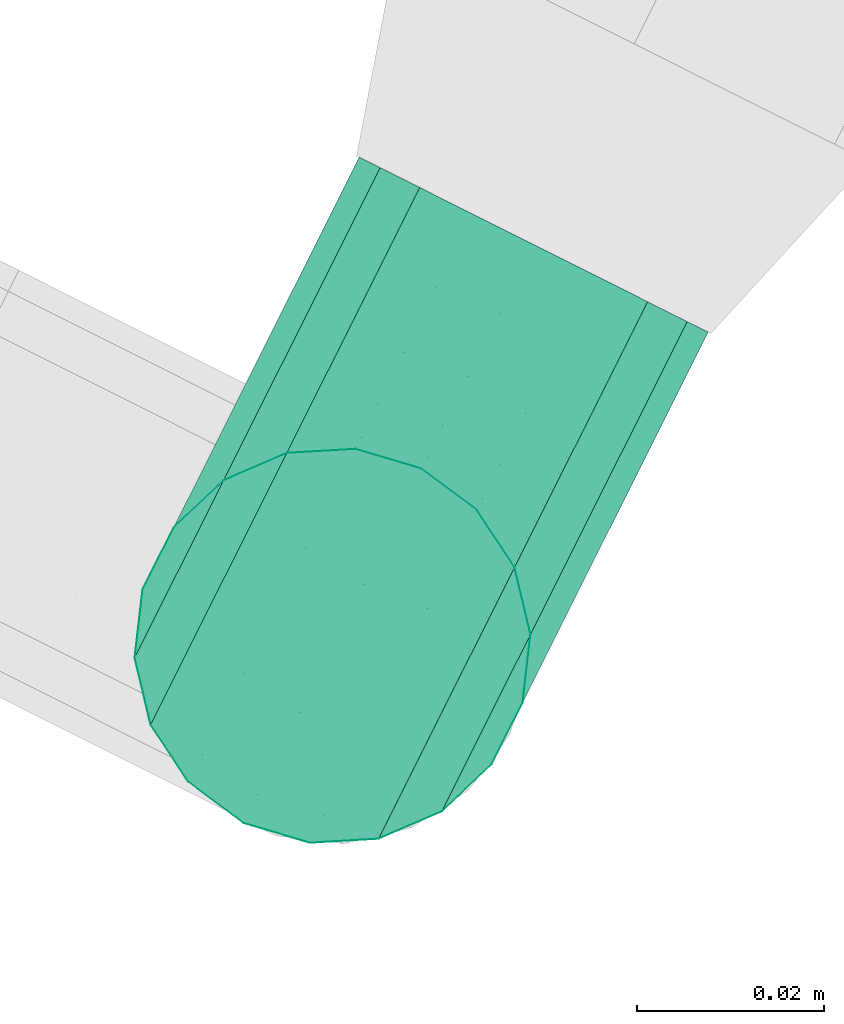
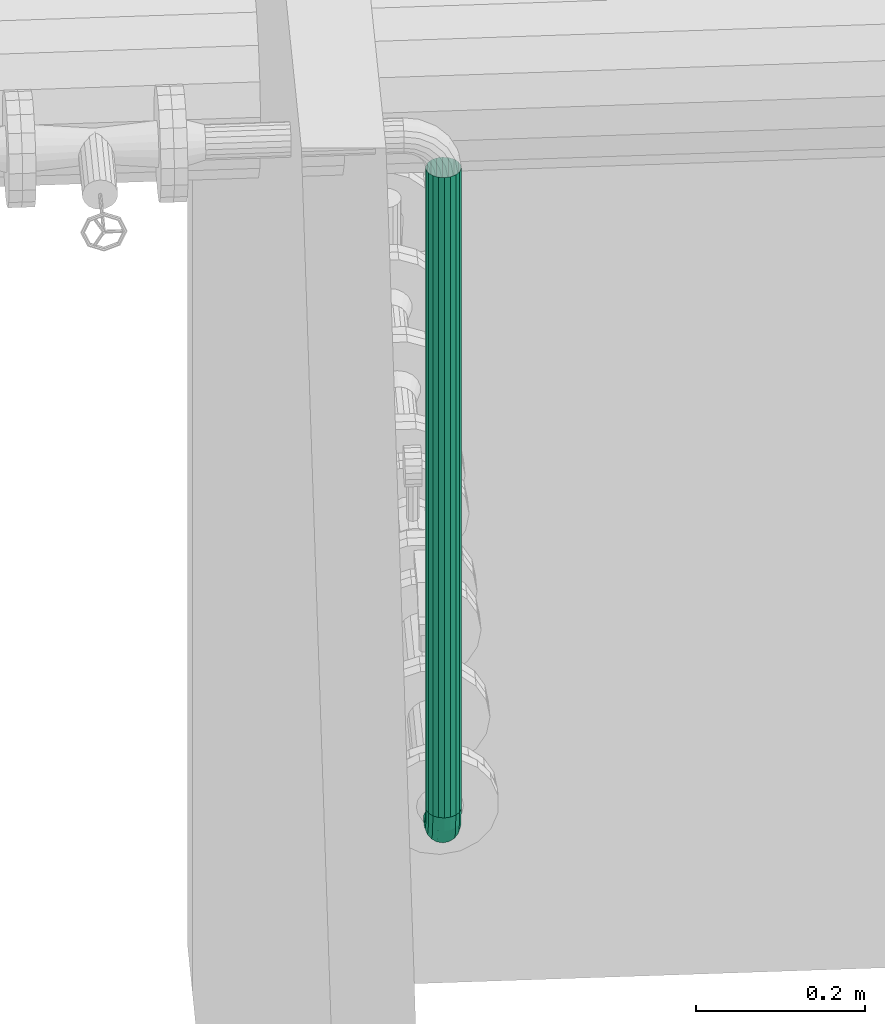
# One storey, part 85 of 206: 2 flow segments.
"""IFC2X3 building model written with IfcOpenShell, lengths in metres."""

from ifc_helpers import new_model, si_unit, derived_unit, direction, frame, origin, place, context, subcontext, project, spatial, face_set, surface_model, source, transform, mapped, material, type_object, type_shapes, element, save


model = new_model("IFC2X3")

# Units and contexts
model_context = context("Model", 3, precision=5.2338327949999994e-05, world=origin(), true_north=direction((0.0, 1.0)))
body_context = subcontext(model_context, "Body", "Model", "MODEL_VIEW")
ifc_project = project(units=[si_unit("LENGTHUNIT", "METRE"), si_unit("AREAUNIT", "SQUARE_METRE"), si_unit("VOLUMEUNIT", "CUBIC_METRE"), si_unit("MASSUNIT", "GRAM", prefix="KILO"), si_unit("PLANEANGLEUNIT", "RADIAN"), derived_unit("THERMALTRANSMITTANCEUNIT", [(si_unit("MASSUNIT", "GRAM", prefix="KILO"), 1), (si_unit("THERMODYNAMICTEMPERATUREUNIT", "KELVIN"), -1), (si_unit("TIMEUNIT", "SECOND"), -3)])], contexts=[model_context])

# Site, building, storey
site_placement = place(None, frame((0.0, 0.0, 0.0), z_axis=(0.0, 0.0, 1.0), x_axis=(0.8939966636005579, -0.4480736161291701, 0.0)))
site = spatial("IfcSite", under=ifc_project, at=site_placement, Name="Default", CompositionType="ELEMENT")
building_placement = place(site_placement, origin())
building = spatial("IfcBuilding", under=site, at=building_placement, CompositionType="ELEMENT")
storey_placement = place(building_placement, origin())
storey = spatial("IfcBuildingStorey", under=building, at=storey_placement, Name="Erdgeschoss", CompositionType="ELEMENT", Elevation=0.0)

# Flow segments
ifc_material = material(Name="IfcSurfaceStyle #352577")
distribution_element_type_1 = type_object("IfcDistributionElementType", Name="Rohrbogen 611777:Rohrbogen 611777", material=ifc_material)
shared_shape_1 = source(origin(), body_context, "Body", "SurfaceModel", [
    surface_model("IfcFaceBasedSurfaceModel", [(29.08181854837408, 8.125162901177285, 1.5628041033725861), (29.089069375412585, 8.125162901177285, 1.564082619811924), (29.089069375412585, 8.104174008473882, 1.567406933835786), (29.08181854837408, 8.103778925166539, 1.566190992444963), (29.089069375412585, 8.085239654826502, 1.5770544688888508), (29.08181854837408, 8.084488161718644, 1.5760201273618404), (29.089069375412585, 8.070213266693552, 1.592080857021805), (29.08181854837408, 8.06917892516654, 1.591329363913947), (29.089069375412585, 8.060565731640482, 1.611015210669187), (29.08181854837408, 8.05934979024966, 1.6106201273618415), (29.08906937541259, 8.057241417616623, 1.6320041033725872), (29.081818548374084, 8.055962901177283, 1.6320041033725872), (29.09544564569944, 8.125162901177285, 1.5677639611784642), (29.09544564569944, 8.105311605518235, 1.5709080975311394), (29.09544564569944, 8.087403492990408, 1.5800327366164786), (29.09544564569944, 8.073191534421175, 1.594244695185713), (29.09544564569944, 8.064066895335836, 1.6121528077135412), (29.095445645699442, 8.060922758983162, 1.6320041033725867), (29.10017828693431, 8.125162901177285, 1.5734041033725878), (29.10017828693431, 8.107054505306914, 1.576272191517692), (29.10017828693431, 8.090718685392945, 1.5845957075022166), (29.10017828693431, 8.077754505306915, 1.597559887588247), (29.10017828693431, 8.069430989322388, 1.6138957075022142), (29.10017828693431, 8.066562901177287, 1.6320041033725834), (29.102696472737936, 8.125162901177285, 1.5803227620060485), (29.10269647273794, 8.10919248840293, 1.5828522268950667), (29.10269647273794, 8.09478537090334, 1.590193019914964), (29.10269647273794, 8.083351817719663, 1.6016265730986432), (29.10269647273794, 8.076011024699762, 1.6160336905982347), (29.102696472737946, 8.073481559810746, 1.6320041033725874), (29.10269647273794, 8.125162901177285, 1.5876854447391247), (29.102696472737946, 8.111467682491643, 1.5898545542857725), (29.10269647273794, 8.099113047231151, 1.5961495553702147), (29.10269647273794, 8.089308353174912, 1.605954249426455), (29.10269647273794, 8.08301335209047, 1.6183088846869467), (29.10269647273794, 8.080844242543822, 1.6320041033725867), (29.10017828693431, 8.125162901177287, 1.5946041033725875), (29.10017828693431, 8.113605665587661, 1.596434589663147), (29.10017828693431, 8.103179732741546, 1.6017468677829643), (29.10017828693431, 8.09490566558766, 1.6100209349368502), (29.10017828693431, 8.089593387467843, 1.620446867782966), (29.10017828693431, 8.087762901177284, 1.6320041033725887), (29.09544564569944, 8.125162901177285, 1.6002442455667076), (29.09544564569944, 8.115348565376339, 1.6017986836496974), (29.09544564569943, 8.106494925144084, 1.6063098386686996), (29.09544564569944, 8.099468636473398, 1.6133361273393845), (29.09544564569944, 8.094957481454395, 1.6221897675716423), (29.09544564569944, 8.093403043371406, 1.6320041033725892), (29.08906937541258, 8.125162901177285, 1.6039255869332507), (29.08906937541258, 8.116486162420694, 1.6052998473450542), (29.089069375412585, 8.10865876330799, 1.6092881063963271), (29.08906937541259, 8.102446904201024, 1.6154999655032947), (29.089069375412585, 8.098458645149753, 1.6233273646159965), (29.08906937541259, 8.097084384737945, 1.6320041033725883), (29.08181854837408, 8.125162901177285, 1.6052041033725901), (29.081818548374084, 8.116881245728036, 1.606515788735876), (29.08181854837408, 8.109410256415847, 1.61032244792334), (29.081818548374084, 8.103481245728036, 1.6162514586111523), (29.081818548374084, 8.099674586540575, 1.6237224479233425), (29.081818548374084, 8.098362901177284, 1.6320041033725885), (29.074567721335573, 8.125162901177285, 1.6039255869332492), (29.074567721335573, 8.116486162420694, 1.6052998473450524), (29.074567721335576, 8.108658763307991, 1.609288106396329), (29.07456772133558, 8.102446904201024, 1.6154999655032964), (29.074567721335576, 8.098458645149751, 1.623327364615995), (29.074567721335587, 8.097084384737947, 1.632004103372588), (29.068191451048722, 8.125162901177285, 1.6002442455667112), (29.068191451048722, 8.115348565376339, 1.6017986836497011), (29.068191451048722, 8.106494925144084, 1.606309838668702), (29.068191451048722, 8.0994686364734, 1.613336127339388), (29.068191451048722, 8.094957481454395, 1.6221897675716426), (29.068191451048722, 8.093403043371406, 1.6320041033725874), (29.063458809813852, 8.125162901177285, 1.5946041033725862), (29.063458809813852, 8.113605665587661, 1.596434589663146), (29.063458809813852, 8.103179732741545, 1.601746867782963), (29.063458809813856, 8.09490566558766, 1.6100209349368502), (29.063458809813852, 8.089593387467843, 1.6204468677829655), (29.063458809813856, 8.087762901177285, 1.6320041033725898), (29.06094062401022, 8.125162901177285, 1.5876854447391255), (29.06094062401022, 8.111467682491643, 1.5898545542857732), (29.06094062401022, 8.099113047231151, 1.5961495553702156), (29.06094062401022, 8.089308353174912, 1.6059542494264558), (29.06094062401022, 8.08301335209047, 1.618308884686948), (29.06094062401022, 8.080844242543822, 1.6320041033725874), (29.06094062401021, 8.125162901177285, 1.5803227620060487), (29.060940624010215, 8.10919248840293, 1.5828522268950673), (29.06094062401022, 8.094785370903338, 1.5901930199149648), (29.06094062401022, 8.083351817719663, 1.6016265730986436), (29.06094062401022, 8.076011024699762, 1.6160336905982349), (29.060940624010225, 8.073481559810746, 1.6320041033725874), (29.063458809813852, 8.125162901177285, 1.5734041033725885), (29.063458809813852, 8.107054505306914, 1.5762721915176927), (29.06345880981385, 8.090718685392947, 1.584595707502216), (29.063458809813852, 8.077754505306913, 1.597559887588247), (29.063458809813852, 8.069430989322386, 1.6138957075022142), (29.063458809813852, 8.066562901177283, 1.6320041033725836), (29.06819145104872, 8.125162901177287, 1.5677639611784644), (29.06819145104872, 8.105311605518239, 1.5709080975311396), (29.068191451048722, 8.087403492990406, 1.5800327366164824), (29.068191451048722, 8.07319153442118, 1.5942446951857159), (29.068191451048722, 8.064066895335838, 1.6121528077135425), (29.06819145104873, 8.060922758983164, 1.6320041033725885), (29.074567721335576, 8.125162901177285, 1.5640826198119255), (29.074567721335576, 8.104174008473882, 1.5674069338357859), (29.074567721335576, 8.085239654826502, 1.5770544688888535), (29.074567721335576, 8.07021326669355, 1.5920808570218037), (29.074567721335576, 8.060565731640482, 1.6110152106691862), (29.07456772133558, 8.057241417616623, 1.6320041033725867)], [face_set([[[0, 1, 2, 3]], [[3, 2, 4, 5]], [[5, 4, 6, 7]], [[7, 6, 8, 9]], [[9, 8, 10, 11]], [[1, 12, 13, 2]], [[2, 13, 14, 4]], [[4, 14, 15, 6]], [[6, 15, 16, 8]], [[8, 16, 17, 10]], [[12, 18, 19, 13]], [[13, 19, 20, 14]], [[14, 20, 21, 15]], [[15, 21, 22, 16]], [[16, 22, 23, 17]], [[18, 24, 25, 19]], [[19, 25, 26, 20]], [[20, 26, 27, 21]], [[21, 27, 28, 22]], [[22, 28, 29, 23]], [[24, 30, 31, 25]], [[25, 31, 32, 26]], [[26, 32, 33, 27]], [[27, 33, 34, 28]], [[28, 34, 35, 29]], [[30, 36, 37, 31]], [[31, 37, 38, 32]], [[32, 38, 39, 33]], [[33, 39, 40, 34]], [[34, 40, 41, 35]], [[36, 42, 43, 37]], [[37, 43, 44, 38]], [[38, 44, 45, 39]], [[39, 45, 46, 40]], [[40, 46, 47, 41]], [[42, 48, 49, 43]], [[43, 49, 50, 44]], [[44, 50, 51, 45]], [[45, 51, 52, 46]], [[46, 52, 53, 47]], [[48, 54, 55, 49]], [[49, 55, 56, 50]], [[50, 56, 57, 51]], [[51, 57, 58, 52]], [[52, 58, 59, 53]], [[54, 60, 61, 55]], [[55, 61, 62, 56]], [[56, 62, 63, 57]], [[57, 63, 64, 58]], [[58, 64, 65, 59]], [[60, 66, 67, 61]], [[61, 67, 68, 62]], [[62, 68, 69, 63]], [[63, 69, 70, 64]], [[64, 70, 71, 65]], [[66, 72, 73, 67]], [[67, 73, 74, 68]], [[68, 74, 75, 69]], [[69, 75, 76, 70]], [[70, 76, 77, 71]], [[72, 78, 79, 73]], [[73, 79, 80, 74]], [[74, 80, 81, 75]], [[75, 81, 82, 76]], [[76, 82, 83, 77]], [[78, 84, 85, 79]], [[79, 85, 86, 80]], [[80, 86, 87, 81]], [[81, 87, 88, 82]], [[82, 88, 89, 83]], [[84, 90, 91, 85]], [[85, 91, 92, 86]], [[86, 92, 93, 87]], [[87, 93, 94, 88]], [[88, 94, 95, 89]], [[90, 96, 97, 91]], [[91, 97, 98, 92]], [[92, 98, 99, 93]], [[93, 99, 100, 94]], [[94, 100, 101, 95]], [[96, 102, 103, 97]], [[97, 103, 104, 98]], [[98, 104, 105, 99]], [[99, 105, 106, 100]], [[100, 106, 107, 101]], [[102, 0, 3, 103]], [[103, 3, 5, 104]], [[104, 5, 7, 105]], [[105, 7, 9, 106]], [[106, 9, 11, 107]]])]),
])
type_shapes(distribution_element_type_1, [shared_shape_1])
flow_segment_1_placement = place(storey_placement, origin())
element("IfcFlowSegment", 1, at=flow_segment_1_placement, inside=storey, type_object=distribution_element_type_1, material=ifc_material, Name="Rohrbogen", ObjectType="Rohrbogen", context=body_context, shape_type="MappedRepresentation", body=[
    mapped(shared_shape_1, transform((0.0, 0.0, 0.0), scale=1.0)),
])
distribution_element_type_2 = type_object("IfcDistributionElementType", Name="Stahlrohr nach DIN 2448 611800:Stahlrohr nach DIN 2448 611800", material=ifc_material)
shared_shape_2 = source(origin(), body_context, "Body", "SurfaceModel", [
    surface_model("IfcFaceBasedSurfaceModel", [(29.08181854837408, 8.055962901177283, 2.557164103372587), (29.074567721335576, 8.057241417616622, 2.557164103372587), (29.074567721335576, 8.057241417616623, 1.6320041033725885), (29.08181854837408, 8.055962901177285, 1.6320041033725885), (29.06819145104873, 8.060922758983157, 2.557164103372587), (29.068191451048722, 8.060922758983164, 1.6320041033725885), (29.06345880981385, 8.06656290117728, 2.557164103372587), (29.063458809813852, 8.066562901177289, 1.6320041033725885), (29.06094062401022, 8.073481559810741, 2.557164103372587), (29.06094062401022, 8.073481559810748, 1.6320041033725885), (29.06094062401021, 8.080844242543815, 2.557164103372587), (29.060940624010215, 8.080844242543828, 1.6320041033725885), (29.06345880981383, 8.087762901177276, 2.557164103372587), (29.06345880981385, 8.087762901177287, 1.6320041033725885), (29.068191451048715, 8.093403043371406, 2.557164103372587), (29.068191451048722, 8.09340304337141, 1.6320041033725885), (29.07456772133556, 8.097084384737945, 2.557164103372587), (29.074567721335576, 8.097084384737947, 1.6320041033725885), (29.081818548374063, 8.098362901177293, 2.557164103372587), (29.08181854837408, 8.098362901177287, 1.6320041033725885), (29.08906937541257, 8.097084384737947, 2.557164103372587), (29.089069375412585, 8.097084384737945, 1.6320041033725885), (29.095445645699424, 8.093403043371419, 2.557164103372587), (29.09544564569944, 8.09340304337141, 1.6320041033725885), (29.1001782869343, 8.087762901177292, 2.557164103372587), (29.10017828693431, 8.087762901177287, 1.6320041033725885), (29.102696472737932, 8.080844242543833, 2.557164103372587), (29.10269647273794, 8.080844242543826, 1.6320041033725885), (29.10269647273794, 8.073481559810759, 2.557164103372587), (29.102696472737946, 8.073481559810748, 1.6320041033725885), (29.100178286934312, 8.066562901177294, 2.557164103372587), (29.10017828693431, 8.066562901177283, 1.6320041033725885), (29.09544564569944, 8.060922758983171, 2.557164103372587), (29.09544564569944, 8.060922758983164, 1.6320041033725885), (29.08906937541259, 8.057241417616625, 2.557164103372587), (29.089069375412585, 8.057241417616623, 1.6320041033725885)], [face_set([[[0, 1, 2, 3]], [[1, 4, 5, 2]], [[4, 6, 7, 5]], [[6, 8, 9, 7]], [[8, 10, 11, 9]], [[10, 12, 13, 11]], [[12, 14, 15, 13]], [[14, 16, 17, 15]], [[16, 18, 19, 17]], [[18, 20, 21, 19]], [[20, 22, 23, 21]], [[22, 24, 25, 23]], [[24, 26, 27, 25]], [[26, 28, 29, 27]], [[28, 30, 31, 29]], [[30, 32, 33, 31]], [[32, 34, 35, 33]], [[34, 0, 3, 35]]])]),
])
type_shapes(distribution_element_type_2, [shared_shape_2])
flow_segment_2_placement = place(storey_placement, origin())
element("IfcFlowSegment", 2, at=flow_segment_2_placement, inside=storey, type_object=distribution_element_type_2, material=ifc_material, Name="Stahlrohr nach DIN 2448", ObjectType="Stahlrohr nach DIN 2448", context=body_context, shape_type="MappedRepresentation", body=[
    mapped(shared_shape_2, transform((0.0, 0.0, 0.0), scale=1.0)),
])

save(model, "model.ifc")
